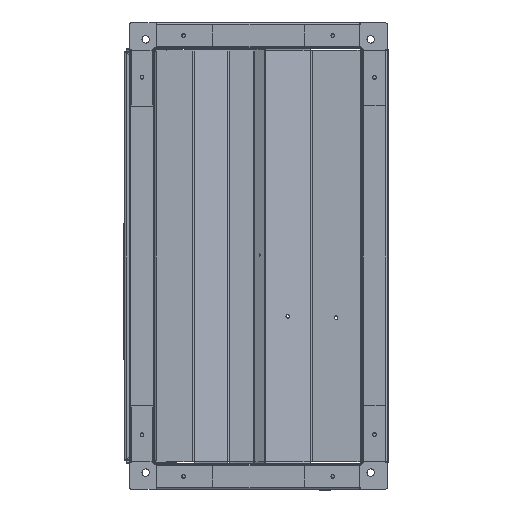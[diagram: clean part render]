
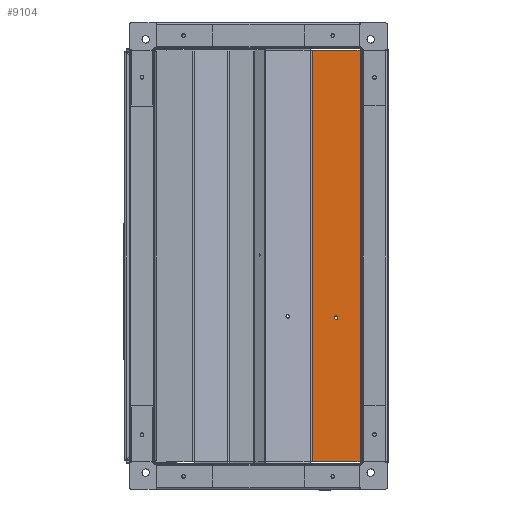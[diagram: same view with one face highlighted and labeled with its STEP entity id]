
A CAD part, left-side view. The second image highlights one B-rep face of the part: STEP entity #9104.
In plain terms, the highlighted planar face has unit normal (1, 0, 0).
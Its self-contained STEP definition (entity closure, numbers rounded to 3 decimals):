
#315 = VERTEX_POINT ( 'NONE', #16474 ) ;
#363 = VERTEX_POINT ( 'NONE', #16596 ) ;
#397 = VERTEX_POINT ( 'NONE', #16520 ) ;
#436 = VERTEX_POINT ( 'NONE', #16457 ) ;
#6057 = CARTESIAN_POINT ( 'NONE',  ( 238.4, 60.342, -247.2 ) ) ;
#6122 = CARTESIAN_POINT ( 'NONE',  ( 238.4, 60.342, 247.2 ) ) ;
#7980 = LINE ( 'NONE', #36579, #7990 ) ;
#7988 = LINE ( 'NONE', #36611, #8002 ) ;
#7990 = VECTOR ( 'NONE', #36582, 1000. ) ;
#7993 = LINE ( 'NONE', #36634, #8017 ) ;
#7998 = CIRCLE ( 'NONE', #82851, 2.1 ) ;
#8002 = VECTOR ( 'NONE', #36590, 1000. ) ;
#8005 = LINE ( 'NONE', #36609, #8010 ) ;
#8010 = VECTOR ( 'NONE', #36607, 1000. ) ;
#8017 = VECTOR ( 'NONE', #36620, 1000. ) ;
#8570 = ORIENTED_EDGE ( 'NONE', *, *, #29589, .T. ) ;
#8575 = ORIENTED_EDGE ( 'NONE', *, *, #29585, .T. ) ;
#8577 = ORIENTED_EDGE ( 'NONE', *, *, #29581, .T. ) ;
#8580 = ORIENTED_EDGE ( 'NONE', *, *, #30287, .F. ) ;
#8582 = ORIENTED_EDGE ( 'NONE', *, *, #29587, .T. ) ;
#8590 = ORIENTED_EDGE ( 'NONE', *, *, #29584, .F. ) ;
#9104 = ADVANCED_FACE ( 'NONE', ( #44832, #44834 ), #69556, .T. ) ;
#16457 = CARTESIAN_POINT ( 'NONE',  ( 238.4, 2.8, 247.2 ) ) ;
#16474 = CARTESIAN_POINT ( 'NONE',  ( 238.4, 29.387, -74.004 ) ) ;
#16520 = CARTESIAN_POINT ( 'NONE',  ( 238.4, 33.587, -74.004 ) ) ;
#16596 = CARTESIAN_POINT ( 'NONE',  ( 238.4, 2.8, -247.2 ) ) ;
#29581 = EDGE_CURVE ( 'NONE', #436, #363, #7980, .T. ) ;
#29584 = EDGE_CURVE ( 'NONE', #315, #397, #7998, .T. ) ;
#29585 = EDGE_CURVE ( 'NONE', #363, #39868, #7988, .T. ) ;
#29587 = EDGE_CURVE ( 'NONE', #39987, #436, #8005, .T. ) ;
#29589 = EDGE_CURVE ( 'NONE', #39868, #39987, #7993, .T. ) ;
#30287 = EDGE_CURVE ( 'NONE', #397, #315, #49160, .T. ) ;
#36579 = CARTESIAN_POINT ( 'NONE',  ( 238.4, 2.8, 247.693 ) ) ;
#36582 = DIRECTION ( 'NONE',  ( 0., 0., -1. ) ) ;
#36590 = DIRECTION ( 'NONE',  ( 0., 1., 0. ) ) ;
#36607 = DIRECTION ( 'NONE',  ( 0., -1., 0. ) ) ;
#36609 = CARTESIAN_POINT ( 'NONE',  ( 238.4, 60.771, 247.2 ) ) ;
#36611 = CARTESIAN_POINT ( 'NONE',  ( 238.4, 2.307, -247.2 ) ) ;
#36613 = CARTESIAN_POINT ( 'NONE',  ( 238.4, 31.487, -74.004 ) ) ;
#36615 = DIRECTION ( 'NONE',  ( 1., 0., 0. ) ) ;
#36616 = DIRECTION ( 'NONE',  ( 0., -1., 0. ) ) ;
#36620 = DIRECTION ( 'NONE',  ( 0., 0., 1. ) ) ;
#36634 = CARTESIAN_POINT ( 'NONE',  ( 238.4, 60.342, -249.2 ) ) ;
#39112 = CARTESIAN_POINT ( 'NONE',  ( 238.4, 31.487, -74.004 ) ) ;
#39113 = DIRECTION ( 'NONE',  ( 1., 0., 0. ) ) ;
#39114 = DIRECTION ( 'NONE',  ( 0., -1., 0. ) ) ;
#39868 = VERTEX_POINT ( 'NONE', #6057 ) ;
#39987 = VERTEX_POINT ( 'NONE', #6122 ) ;
#40550 = EDGE_LOOP ( 'NONE', ( #8590, #8580 ) ) ;
#44832 = FACE_BOUND ( 'NONE', #40550, .T. ) ;
#44834 = FACE_OUTER_BOUND ( 'NONE', #86148, .T. ) ;
#49160 = CIRCLE ( 'NONE', #82382, 2.1 ) ;
#67494 = AXIS2_PLACEMENT_3D ( 'NONE', #69560, #69942, #69596 ) ;
#69556 = PLANE ( 'NONE',  #67494 ) ;
#69560 = CARTESIAN_POINT ( 'NONE',  ( 238.4, 0.8, -249.2 ) ) ;
#69596 = DIRECTION ( 'NONE',  ( 0., 0., -1. ) ) ;
#69942 = DIRECTION ( 'NONE',  ( 1., 0., 0. ) ) ;
#82382 = AXIS2_PLACEMENT_3D ( 'NONE', #39112, #39113, #39114 ) ;
#82851 = AXIS2_PLACEMENT_3D ( 'NONE', #36613, #36615, #36616 ) ;
#86148 = EDGE_LOOP ( 'NONE', ( #8582, #8577, #8575, #8570 ) ) ;
